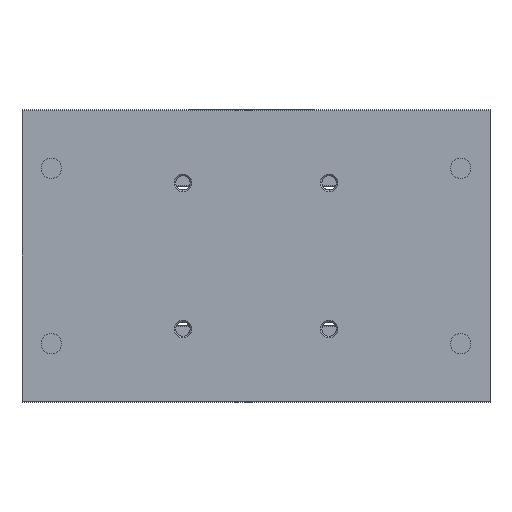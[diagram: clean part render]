
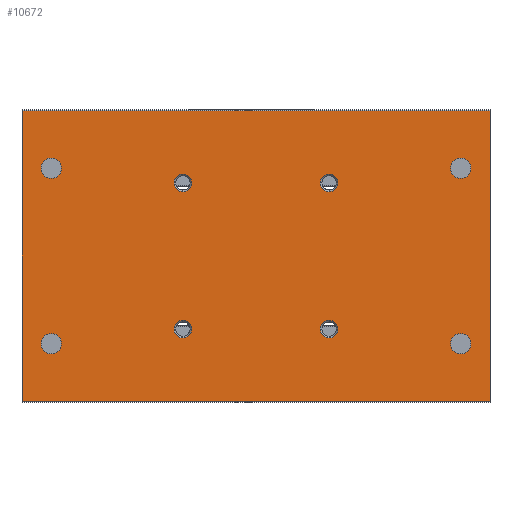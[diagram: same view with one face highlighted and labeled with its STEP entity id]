
A CAD part, front view. The second image highlights one B-rep face of the part: STEP entity #10672.
In plain terms, the highlighted planar face has unit normal (0, -1, 0).
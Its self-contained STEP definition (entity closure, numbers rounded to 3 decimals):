
#354=CIRCLE('',#11302,3.);
#355=CIRCLE('',#11303,3.);
#356=CIRCLE('',#11304,3.);
#357=CIRCLE('',#11305,3.);
#358=CIRCLE('',#11306,3.5);
#359=CIRCLE('',#11307,3.5);
#360=CIRCLE('',#11308,3.5);
#361=CIRCLE('',#11309,3.5);
#1084=ORIENTED_EDGE('',*,*,#4361,.F.);
#1085=ORIENTED_EDGE('',*,*,#4362,.F.);
#1086=ORIENTED_EDGE('',*,*,#4363,.F.);
#1087=ORIENTED_EDGE('',*,*,#4364,.F.);
#1088=ORIENTED_EDGE('',*,*,#4365,.T.);
#1089=ORIENTED_EDGE('',*,*,#4366,.F.);
#1090=ORIENTED_EDGE('',*,*,#4367,.F.);
#1091=ORIENTED_EDGE('',*,*,#4368,.F.);
#1092=ORIENTED_EDGE('',*,*,#4315,.T.);
#1093=ORIENTED_EDGE('',*,*,#4369,.F.);
#1094=ORIENTED_EDGE('',*,*,#4370,.F.);
#1095=ORIENTED_EDGE('',*,*,#4359,.T.);
#4315=EDGE_CURVE('',#5960,#5959,#7055,.T.);
#4359=EDGE_CURVE('',#5994,#5960,#7099,.T.);
#4361=EDGE_CURVE('',#5995,#5995,#354,.T.);
#4362=EDGE_CURVE('',#5996,#5996,#355,.T.);
#4363=EDGE_CURVE('',#5997,#5997,#356,.T.);
#4364=EDGE_CURVE('',#5998,#5998,#357,.T.);
#4365=EDGE_CURVE('',#5999,#5999,#358,.T.);
#4366=EDGE_CURVE('',#6000,#6000,#359,.T.);
#4367=EDGE_CURVE('',#6001,#6001,#360,.T.);
#4368=EDGE_CURVE('',#6002,#6002,#361,.T.);
#4369=EDGE_CURVE('',#6003,#5959,#7101,.T.);
#4370=EDGE_CURVE('',#5994,#6003,#7102,.T.);
#5959=VERTEX_POINT('',#16102);
#5960=VERTEX_POINT('',#16104);
#5994=VERTEX_POINT('',#16189);
#5995=VERTEX_POINT('',#16193);
#5996=VERTEX_POINT('',#16195);
#5997=VERTEX_POINT('',#16197);
#5998=VERTEX_POINT('',#16199);
#5999=VERTEX_POINT('',#16201);
#6000=VERTEX_POINT('',#16203);
#6001=VERTEX_POINT('',#16205);
#6002=VERTEX_POINT('',#16207);
#6003=VERTEX_POINT('',#16209);
#7055=LINE('',#16103,#8055);
#7099=LINE('',#16188,#8099);
#7101=LINE('',#16208,#8101);
#7102=LINE('',#16210,#8102);
#8055=VECTOR('',#12578,1000.);
#8099=VECTOR('',#12636,1000.);
#8101=VECTOR('',#12656,1000.);
#8102=VECTOR('',#12657,1000.);
#9037=EDGE_LOOP('',(#1084));
#9038=EDGE_LOOP('',(#1085));
#9039=EDGE_LOOP('',(#1086));
#9040=EDGE_LOOP('',(#1087));
#9041=EDGE_LOOP('',(#1088));
#9042=EDGE_LOOP('',(#1089));
#9043=EDGE_LOOP('',(#1090));
#9044=EDGE_LOOP('',(#1091));
#9045=EDGE_LOOP('',(#1092,#1093,#1094,#1095));
#9715=FACE_BOUND('',#9037,.T.);
#9716=FACE_BOUND('',#9038,.T.);
#9717=FACE_BOUND('',#9039,.T.);
#9718=FACE_BOUND('',#9040,.T.);
#9719=FACE_BOUND('',#9041,.T.);
#9720=FACE_BOUND('',#9042,.T.);
#9721=FACE_BOUND('',#9043,.T.);
#9722=FACE_BOUND('',#9044,.T.);
#9723=FACE_BOUND('',#9045,.T.);
#10393=PLANE('',#11301);
#10672=ADVANCED_FACE('',(#9715,#9716,#9717,#9718,#9719,#9720,#9721,#9722,
#9723),#10393,.F.);
#11301=AXIS2_PLACEMENT_3D('',#16191,#12638,#12639);
#11302=AXIS2_PLACEMENT_3D('',#16192,#12640,#12641);
#11303=AXIS2_PLACEMENT_3D('',#16194,#12642,#12643);
#11304=AXIS2_PLACEMENT_3D('',#16196,#12644,#12645);
#11305=AXIS2_PLACEMENT_3D('',#16198,#12646,#12647);
#11306=AXIS2_PLACEMENT_3D('',#16200,#12648,#12649);
#11307=AXIS2_PLACEMENT_3D('',#16202,#12650,#12651);
#11308=AXIS2_PLACEMENT_3D('',#16204,#12652,#12653);
#11309=AXIS2_PLACEMENT_3D('',#16206,#12654,#12655);
#12578=DIRECTION('',(0.,0.,-1.));
#12636=DIRECTION('',(-1.,0.,0.));
#12638=DIRECTION('',(0.,1.,0.));
#12639=DIRECTION('',(0.,0.,1.));
#12640=DIRECTION('',(0.,-1.,0.));
#12641=DIRECTION('',(0.,0.,-1.));
#12642=DIRECTION('',(0.,-1.,0.));
#12643=DIRECTION('',(0.,0.,-1.));
#12644=DIRECTION('',(0.,-1.,0.));
#12645=DIRECTION('',(0.,0.,-1.));
#12646=DIRECTION('',(0.,-1.,0.));
#12647=DIRECTION('',(0.,0.,-1.));
#12648=DIRECTION('',(0.,1.,0.));
#12649=DIRECTION('',(0.,0.,1.));
#12650=DIRECTION('',(0.,-1.,0.));
#12651=DIRECTION('',(0.,0.,-1.));
#12652=DIRECTION('',(0.,-1.,0.));
#12653=DIRECTION('',(0.,0.,-1.));
#12654=DIRECTION('',(0.,-1.,0.));
#12655=DIRECTION('',(0.,0.,-1.));
#12656=DIRECTION('',(-1.,0.,0.));
#12657=DIRECTION('',(0.,0.,-1.));
#16102=CARTESIAN_POINT('',(0.,0.,-49.7));
#16103=CARTESIAN_POINT('',(0.,0.,49.7));
#16104=CARTESIAN_POINT('',(0.,0.,49.7));
#16188=CARTESIAN_POINT('',(160.,0.,49.7));
#16189=CARTESIAN_POINT('',(160.,0.,49.7));
#16191=CARTESIAN_POINT('',(160.,0.,49.7));
#16192=CARTESIAN_POINT('',(105.,0.,-25.));
#16193=CARTESIAN_POINT('',(105.,0.,-28.));
#16194=CARTESIAN_POINT('',(105.,0.,25.));
#16195=CARTESIAN_POINT('',(105.,0.,22.));
#16196=CARTESIAN_POINT('',(55.,0.,-25.));
#16197=CARTESIAN_POINT('',(55.,0.,-28.));
#16198=CARTESIAN_POINT('',(55.,0.,25.));
#16199=CARTESIAN_POINT('',(55.,0.,22.));
#16200=CARTESIAN_POINT('',(150.,0.,30.));
#16201=CARTESIAN_POINT('',(150.,0.,33.5));
#16202=CARTESIAN_POINT('',(150.,0.,-30.));
#16203=CARTESIAN_POINT('',(150.,0.,-33.5));
#16204=CARTESIAN_POINT('',(10.,0.,-30.));
#16205=CARTESIAN_POINT('',(10.,0.,-33.5));
#16206=CARTESIAN_POINT('',(10.,0.,30.));
#16207=CARTESIAN_POINT('',(10.,0.,26.5));
#16208=CARTESIAN_POINT('',(160.,0.,-49.7));
#16209=CARTESIAN_POINT('',(160.,0.,-49.7));
#16210=CARTESIAN_POINT('',(160.,0.,49.7));
